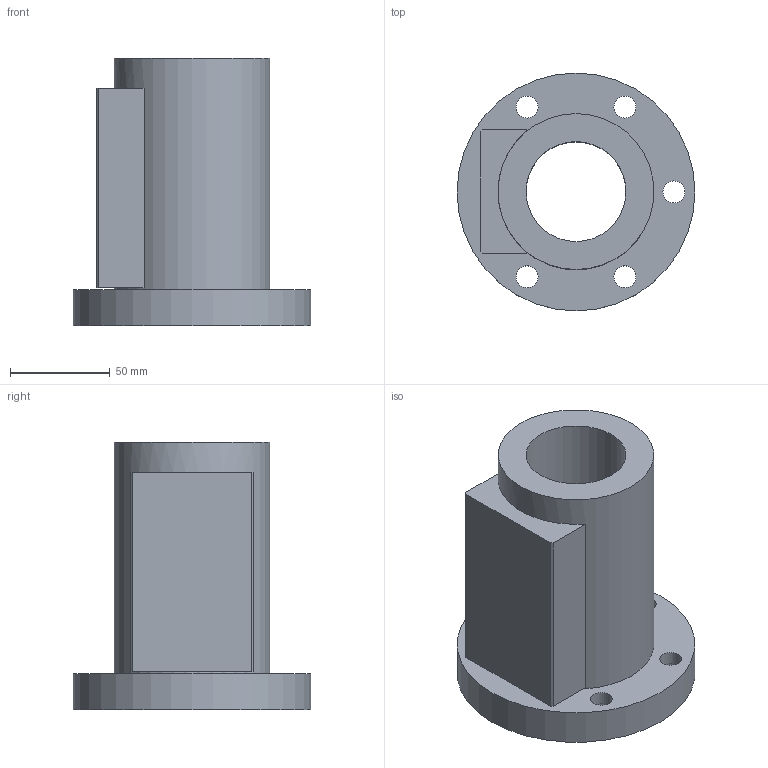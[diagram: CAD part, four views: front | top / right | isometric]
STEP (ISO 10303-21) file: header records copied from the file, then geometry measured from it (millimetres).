
FILE_DESCRIPTION(/* description */ (''),/* implementation_level */ '2;1');
FILE_NAME(/* name */ '50-10B3',/* time_stamp */ '2006-07-31T11:47:55+08:00',/* author */ (''),/* organization */ (''),/* preprocessor_version */ 'ST-DEVELOPER v9',/* originating_system */ 'UGS - NX 4.0',/* authorisation */ '');
FILE_SCHEMA (('CONFIG_CONTROL_DESIGN'));
Length unit declared in the file: millimetre
Products named in the file (1): 50-10B3
Bounding box: 119 x 119 x 134 mm (x, y, z)
Volume: 559205.9 mm3; surface area: 83343.7 mm2
Topology: 1 solids, 1 shells, 30 faces, 67 edges, 46 vertices
Faces by surface type: plane 17, cylinder 13
Full cylindrical faces by diameter (mm): 11 x5, 17.5 x5, 50 x1, 78 x1, 119 x1
Entity records: 860 total; most frequent: DIRECTION 140, CARTESIAN_POINT 123, ORIENTED_EDGE 100, EDGE_LOOP 62, AXIS2_PLACEMENT_3D 59, EDGE_CURVE 50, FACE_BOUND 45, VERTEX_POINT 42
